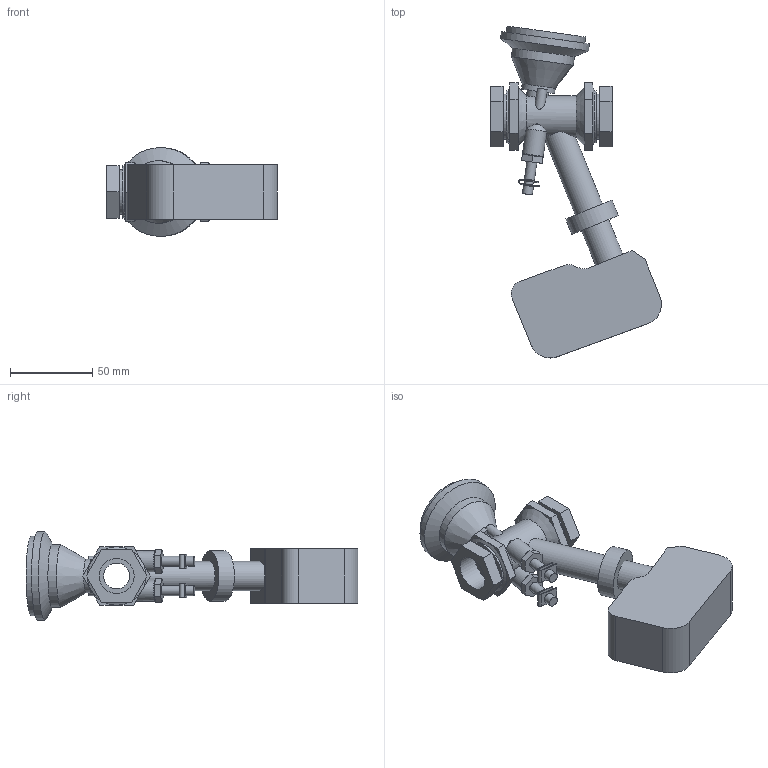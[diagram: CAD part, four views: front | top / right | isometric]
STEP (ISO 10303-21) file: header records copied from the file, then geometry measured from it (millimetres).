
FILE_DESCRIPTION(/* description */ ('VIC BALANCING AND CONTROL VALVE SERIES 7CP (FPT)-TA SLIDER 160 FAIL-SAFE','CAx-IF Rec.Pracs.---Representation and Presentation of Product Manufacturing Information (PMI)---4.0---2014-10-13'),/* implementation_level */ '2;1');
FILE_NAME(/* name */ 'C:\Users\Vjadhav\AppData\Roaming\Autodesk\ApplicationPlugins\Victaulic.Temp\A633\Victaulic_IPS_Valve Balancing Pressure Independent_TA Series 7CP (FPT)_Slider 160 Fail-Safe_0.5 (15).stp',/* time_stamp */ '2021-09-14T20:03:12+06:00',/* author */ ('Vjadhav'),/* organization */ ('Victaulic'),/* preprocessor_version */ 'ST-DEVELOPER v17.2',/* originating_system */ 'Autodesk Inventor 2019',/* authorisation */ '');
FILE_SCHEMA (('AP242_MANAGED_MODEL_BASED_3D_ENGINEERING_MIM_LF { 1 0 10303 442 1 1 4 }'));
Length unit declared in the file: inch
Products named in the file (2): 7CP_Slider 160 Fail-Safe-0.5; 7CP-0.5
Assembly tree (1 placements, depth 2):
  7CP_Slider 160 Fail-Safe-0.5
    7CP-0.5
Bounding box: 103.96 x 201.93 x 54.1 mm (x, y, z)
Volume: 230014.4 mm3; surface area: 48516 mm2
Topology: 1 solids, 1 shells, 172 faces, 440 edges, 294 vertices
Faces by surface type: plane 118, cylinder 46, cone 8
Full cylindrical faces by diameter (mm): 5.08 x6, 6.096 x8, 12.7 x2, 15.799 x2, 17.78 x2, 20.32 x1, 21.336 x3, 25.4 x1, 27.432 x2, 30.471 x1, 31.75 x2, 38.1 x1, 48.26 x1, 54.102 x1
Entity records: 5782 total; most frequent: CARTESIAN_POINT 1154, DIRECTION 942, ORIENTED_EDGE 880, EDGE_CURVE 440, AXIS2_PLACEMENT_3D 348, VERTEX_POINT 294, LINE 246, VECTOR 246
